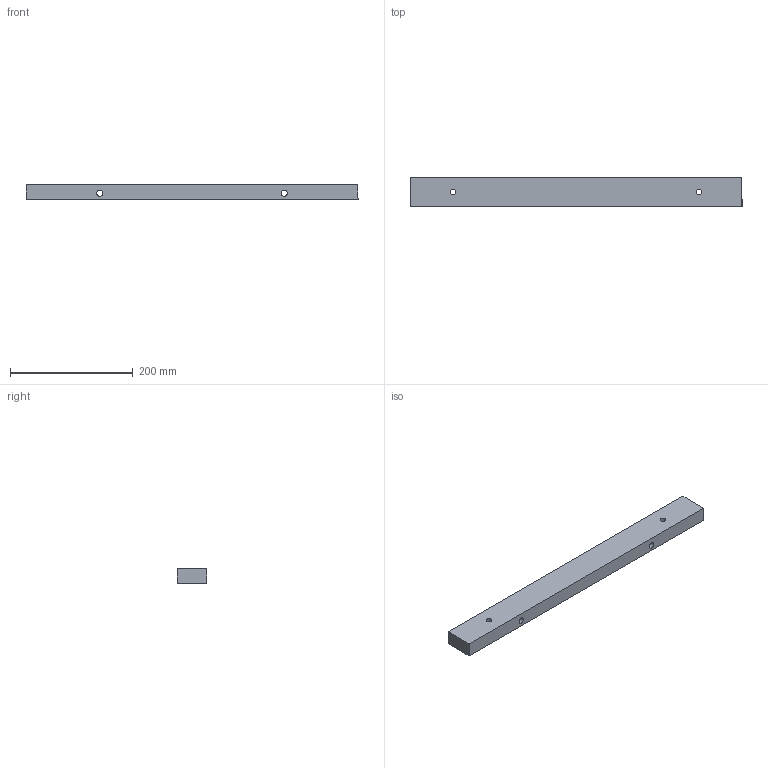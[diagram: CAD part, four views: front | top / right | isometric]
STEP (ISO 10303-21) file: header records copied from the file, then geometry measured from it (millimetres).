
FILE_DESCRIPTION (( 'STEP AP203' ), '1' );
FILE_NAME ('Tasseau_Parois_Biais.STEP', '2026-06-24T07:29:48', ( '' ), ( '' ), 'SwSTEP 2.0', 'SolidWorks 2024', '' );
FILE_SCHEMA (( 'CONFIG_CONTROL_DESIGN' ));
Length unit declared in the file: millimetre
Products named in the file (1): Tasseau_Parois_Biais_Percé_Externe
Bounding box: 540 x 48 x 24 mm (x, y, z)
Volume: 611486.5 mm3; surface area: 83868.5 mm2
Topology: 1 solids, 1 shells, 10 faces, 24 edges, 16 vertices
Faces by surface type: plane 6, cylinder 4
Full cylindrical faces by diameter (mm): 9 x2, 10 x2
Entity records: 367 total; most frequent: DIRECTION 50, CARTESIAN_POINT 47, ORIENTED_EDGE 40, EDGE_LOOP 22, EDGE_CURVE 20, AXIS2_PLACEMENT_3D 19, VERTEX_POINT 16, FACE_OUTER_BOUND 14
